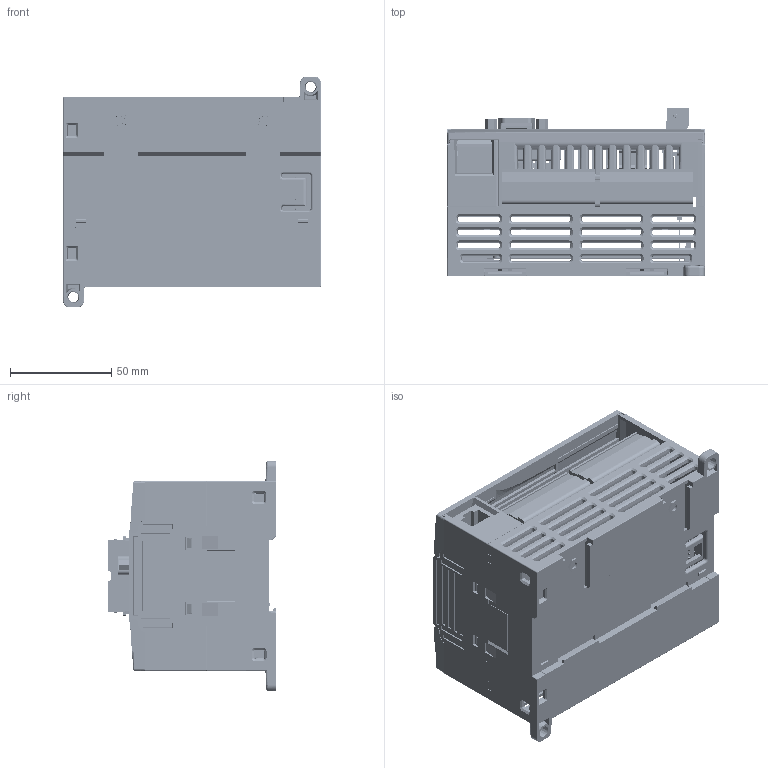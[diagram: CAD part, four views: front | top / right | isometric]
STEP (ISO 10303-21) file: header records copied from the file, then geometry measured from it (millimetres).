
FILE_DESCRIPTION (( 'STEP AP214' ), '1' );
FILE_NAME ('KINCO K606²úÆ·.STEP', '2022-04-15T09:03:08', ( '' ), ( '' ), 'SwSTEP 2.0', 'SolidWorks 2020', '' );
FILE_SCHEMA (( 'AUTOMOTIVE_DESIGN' ));
Length unit declared in the file: millimetre
Products named in the file (1): KINCO  K606莉こ
Bounding box: 127.57 x 83.35 x 114 mm (x, y, z)
Volume: 218873.1 mm3; surface area: 247842.7 mm2
Topology: 140 solids, 140 shells, 11894 faces, 30702 edges, 20197 vertices
Faces by surface type: plane 9321, cylinder 2128, bspline 236, cone 209
Entity records: 517627 total; most frequent: CARTESIAN_POINT 112323, ORIENTED_EDGE 61362, DIRECTION 46170, EDGE_CURVE 30681, VERTEX_POINT 20197, VECTOR 19682, LINE 19682, EDGE_LOOP 13578
